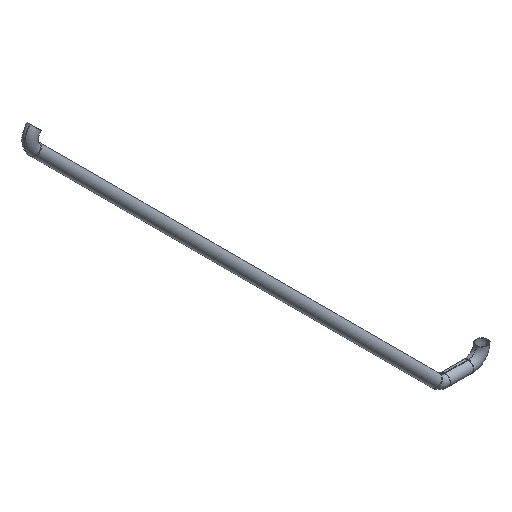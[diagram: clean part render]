
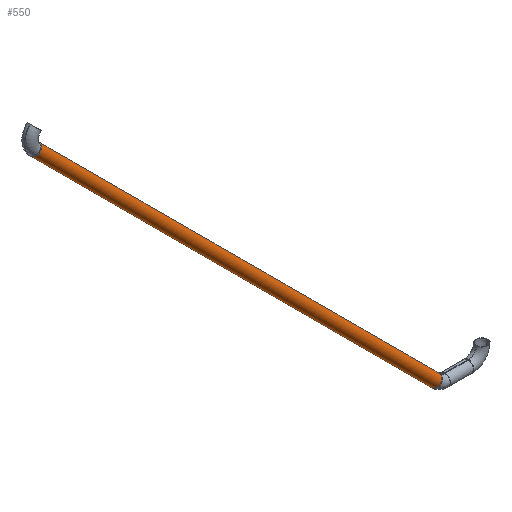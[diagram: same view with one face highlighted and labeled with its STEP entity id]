
A CAD part, isometric view. The second image highlights one B-rep face of the part: STEP entity #550.
In plain terms, the highlighted cylindrical face has radius 24.15 mm (diameter 48.3 mm), a partial arc.
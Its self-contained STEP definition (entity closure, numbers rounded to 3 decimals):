
#48 = VECTOR ( 'NONE', #456, 1000. ) ;
#117 = FACE_OUTER_BOUND ( 'NONE', #667, .T. ) ;
#156 = EDGE_CURVE ( 'NONE', #670, #302, #481, .T. ) ;
#158 = AXIS2_PLACEMENT_3D ( 'NONE', #679, #271, #619 ) ;
#166 = VERTEX_POINT ( 'NONE', #255 ) ;
#180 = AXIS2_PLACEMENT_3D ( 'NONE', #673, #280, #555 ) ;
#195 = DIRECTION ( 'NONE',  ( 0.707, 0., -0.707 ) ) ;
#204 = ORIENTED_EDGE ( 'NONE', *, *, #524, .F. ) ;
#226 = AXIS2_PLACEMENT_3D ( 'NONE', #378, #195, #646 ) ;
#255 = CARTESIAN_POINT ( 'NONE',  ( 6741.228, 3575., -5286.232 ) ) ;
#271 = DIRECTION ( 'NONE',  ( 0.707, 0., -0.707 ) ) ;
#280 = DIRECTION ( 'NONE',  ( -0.707, 0., 0.707 ) ) ;
#302 = VERTEX_POINT ( 'NONE', #671 ) ;
#308 = CARTESIAN_POINT ( 'NONE',  ( 6775.382, 3575., -5252.078 ) ) ;
#329 = CARTESIAN_POINT ( 'NONE',  ( 5179.873, 3575., -3656.57 ) ) ;
#332 = DIRECTION ( 'NONE',  ( 0.707, 0., -0.707 ) ) ;
#378 = CARTESIAN_POINT ( 'NONE',  ( 5092.086, 3575., -3602.936 ) ) ;
#384 = LINE ( 'NONE', #399, #583 ) ;
#399 = CARTESIAN_POINT ( 'NONE',  ( 5145.72, 3575., -3690.723 ) ) ;
#437 = VERTEX_POINT ( 'NONE', #308 ) ;
#455 = ORIENTED_EDGE ( 'NONE', *, *, #542, .T. ) ;
#456 = DIRECTION ( 'NONE',  ( 0.707, 0., -0.707 ) ) ;
#458 = ORIENTED_EDGE ( 'NONE', *, *, #156, .T. ) ;
#481 = CIRCLE ( 'NONE', #226, 24.15 ) ;
#489 = EDGE_CURVE ( 'NONE', #166, #437, #656, .T. ) ;
#497 = CYLINDRICAL_SURFACE ( 'NONE', #158, 24.15 ) ;
#524 = EDGE_CURVE ( 'NONE', #670, #437, #723, .T. ) ;
#542 = EDGE_CURVE ( 'NONE', #302, #166, #384, .T. ) ;
#550 = ADVANCED_FACE ( 'NONE', ( #117 ), #497, .T. ) ;
#555 = DIRECTION ( 'NONE',  ( 0.707, 0., 0.707 ) ) ;
#583 = VECTOR ( 'NONE', #332, 1000. ) ;
#619 = DIRECTION ( 'NONE',  ( 0.707, 0., 0.707 ) ) ;
#635 = CARTESIAN_POINT ( 'NONE',  ( 5109.162, 3575., -3585.859 ) ) ;
#646 = DIRECTION ( 'NONE',  ( -0.707, 0., -0.707 ) ) ;
#647 = ORIENTED_EDGE ( 'NONE', *, *, #489, .T. ) ;
#656 = CIRCLE ( 'NONE', #180, 24.15 ) ;
#667 = EDGE_LOOP ( 'NONE', ( #458, #455, #647, #204 ) ) ;
#670 = VERTEX_POINT ( 'NONE', #635 ) ;
#671 = CARTESIAN_POINT ( 'NONE',  ( 5075.009, 3575., -3620.012 ) ) ;
#673 = CARTESIAN_POINT ( 'NONE',  ( 6758.305, 3575., -5269.155 ) ) ;
#679 = CARTESIAN_POINT ( 'NONE',  ( 5162.797, 3575., -3673.647 ) ) ;
#723 = LINE ( 'NONE', #329, #48 ) ;
